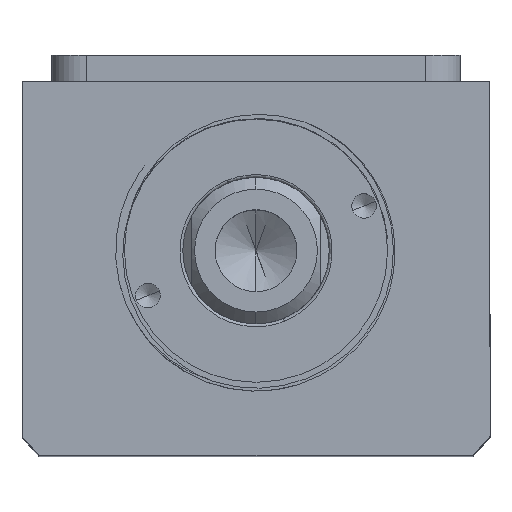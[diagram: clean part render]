
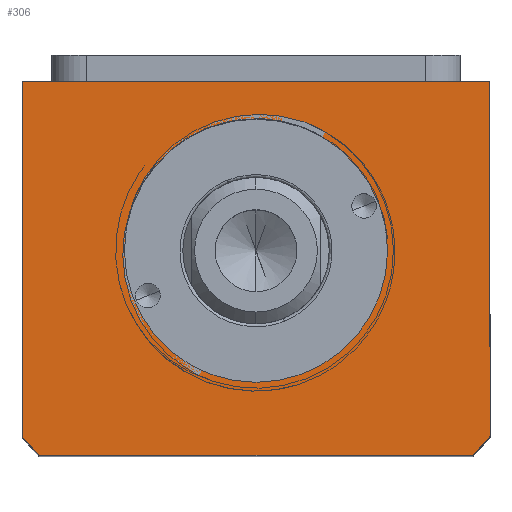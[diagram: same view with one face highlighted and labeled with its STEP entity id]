
A CAD part, top view. The second image highlights one B-rep face of the part: STEP entity #306.
In plain terms, the highlighted planar face has unit normal (0, 0, 1).
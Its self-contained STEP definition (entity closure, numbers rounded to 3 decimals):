
#27 = EDGE_CURVE ( 'NONE', #1104, #4679, #5565, .T. ) ;
#103 = ORIENTED_EDGE ( 'NONE', *, *, #4602, .F. ) ;
#214 = FACE_BOUND ( 'NONE', #1877, .T. ) ;
#306 = ADVANCED_FACE ( 'NONE', ( #214, #8893 ), #4925, .T. ) ;
#450 = CARTESIAN_POINT ( 'NONE',  ( 37.094, -75.507, 135. ) ) ;
#513 = CIRCLE ( 'NONE', #7897, 51. ) ;
#573 = DIRECTION ( 'NONE',  ( 0., 1., 0. ) ) ;
#631 = ORIENTED_EDGE ( 'NONE', *, *, #939, .T. ) ;
#643 = CARTESIAN_POINT ( 'NONE',  ( 40., -11.507, 135. ) ) ;
#799 = CARTESIAN_POINT ( 'NONE',  ( 0., -40.507, 135. ) ) ;
#939 = EDGE_CURVE ( 'NONE', #5122, #4898, #5720, .T. ) ;
#1104 = VERTEX_POINT ( 'NONE', #1522 ) ;
#1196 = AXIS2_PLACEMENT_3D ( 'NONE', #4841, #10564, #5660 ) ;
#1198 = ORIENTED_EDGE ( 'NONE', *, *, #5341, .T. ) ;
#1522 = CARTESIAN_POINT ( 'NONE',  ( -22.5, -40.507, 135. ) ) ;
#1605 = DIRECTION ( 'NONE',  ( 1., 0., 0. ) ) ;
#1877 = EDGE_LOOP ( 'NONE', ( #103, #3167 ) ) ;
#1888 = CIRCLE ( 'NONE', #3424, 51. ) ;
#2188 = DIRECTION ( 'NONE',  ( 0., -1., 0. ) ) ;
#2411 = ORIENTED_EDGE ( 'NONE', *, *, #6551, .T. ) ;
#2464 = CARTESIAN_POINT ( 'NONE',  ( 0., 0., 135. ) ) ;
#2495 = CARTESIAN_POINT ( 'NONE',  ( -37.094, -75.507, 135. ) ) ;
#2531 = VERTEX_POINT ( 'NONE', #5841 ) ;
#2886 = CARTESIAN_POINT ( 'NONE',  ( 0., -40.507, 135. ) ) ;
#3167 = ORIENTED_EDGE ( 'NONE', *, *, #27, .F. ) ;
#3341 = EDGE_CURVE ( 'NONE', #7453, #5122, #1888, .T. ) ;
#3361 = CARTESIAN_POINT ( 'NONE',  ( -40., -11.507, 135. ) ) ;
#3424 = AXIS2_PLACEMENT_3D ( 'NONE', #2886, #8608, #3703 ) ;
#3597 = CARTESIAN_POINT ( 'NONE',  ( -40., -72.145, 135. ) ) ;
#3683 = DIRECTION ( 'NONE',  ( 0., 0., 1. ) ) ;
#3703 = DIRECTION ( 'NONE',  ( 1., 0., 0. ) ) ;
#3991 = DIRECTION ( 'NONE',  ( 0., 0., 1. ) ) ;
#4039 = EDGE_CURVE ( 'NONE', #2531, #10546, #5714, .T. ) ;
#4156 = CARTESIAN_POINT ( 'NONE',  ( 40., -11.507, 135. ) ) ;
#4602 = EDGE_CURVE ( 'NONE', #4679, #1104, #6876, .T. ) ;
#4679 = VERTEX_POINT ( 'NONE', #7326 ) ;
#4841 = CARTESIAN_POINT ( 'NONE',  ( 0., -40.507, 135. ) ) ;
#4868 = CARTESIAN_POINT ( 'NONE',  ( -40., -11.507, 135. ) ) ;
#4898 = VERTEX_POINT ( 'NONE', #4156 ) ;
#4925 = PLANE ( 'NONE',  #8772 ) ;
#4995 = CARTESIAN_POINT ( 'NONE',  ( -40., -75.507, 135. ) ) ;
#5122 = VERTEX_POINT ( 'NONE', #7063 ) ;
#5341 = EDGE_CURVE ( 'NONE', #4898, #2531, #7275, .T. ) ;
#5565 = CIRCLE ( 'NONE', #10063, 22.5 ) ;
#5660 = DIRECTION ( 'NONE',  ( 1., 0., 0. ) ) ;
#5714 = LINE ( 'NONE', #4868, #7025 ) ;
#5720 = LINE ( 'NONE', #643, #9800 ) ;
#5841 = CARTESIAN_POINT ( 'NONE',  ( -40., -11.507, 135. ) ) ;
#6094 = EDGE_CURVE ( 'NONE', #6660, #7453, #6334, .T. ) ;
#6334 = LINE ( 'NONE', #4995, #8282 ) ;
#6389 = DIRECTION ( 'NONE',  ( 1., 0., 0. ) ) ;
#6460 = DIRECTION ( 'NONE',  ( 0., 0., 1. ) ) ;
#6530 = DIRECTION ( 'NONE',  ( 1., 0., 0. ) ) ;
#6551 = EDGE_CURVE ( 'NONE', #10546, #6660, #513, .T. ) ;
#6660 = VERTEX_POINT ( 'NONE', #2495 ) ;
#6876 = CIRCLE ( 'NONE', #1196, 22.5 ) ;
#6926 = ORIENTED_EDGE ( 'NONE', *, *, #6094, .T. ) ;
#7012 = VECTOR ( 'NONE', #9889, 1000. ) ;
#7025 = VECTOR ( 'NONE', #2188, 1000. ) ;
#7063 = CARTESIAN_POINT ( 'NONE',  ( 40., -72.145, 135. ) ) ;
#7275 = LINE ( 'NONE', #3361, #7012 ) ;
#7326 = CARTESIAN_POINT ( 'NONE',  ( 22.5, -40.507, 135. ) ) ;
#7453 = VERTEX_POINT ( 'NONE', #450 ) ;
#7897 = AXIS2_PLACEMENT_3D ( 'NONE', #799, #6460, #1605 ) ;
#8282 = VECTOR ( 'NONE', #9916, 1000. ) ;
#8608 = DIRECTION ( 'NONE',  ( 0., 0., 1. ) ) ;
#8772 = AXIS2_PLACEMENT_3D ( 'NONE', #2464, #3683, #6530 ) ;
#8848 = ORIENTED_EDGE ( 'NONE', *, *, #3341, .T. ) ;
#8893 = FACE_OUTER_BOUND ( 'NONE', #9485, .T. ) ;
#9179 = CARTESIAN_POINT ( 'NONE',  ( 0., -40.507, 135. ) ) ;
#9485 = EDGE_LOOP ( 'NONE', ( #10327, #2411, #6926, #8848, #631, #1198 ) ) ;
#9800 = VECTOR ( 'NONE', #573, 1000. ) ;
#9889 = DIRECTION ( 'NONE',  ( -1., 0., 0. ) ) ;
#9916 = DIRECTION ( 'NONE',  ( 1., 0., 0. ) ) ;
#10063 = AXIS2_PLACEMENT_3D ( 'NONE', #9179, #3991, #6389 ) ;
#10327 = ORIENTED_EDGE ( 'NONE', *, *, #4039, .T. ) ;
#10546 = VERTEX_POINT ( 'NONE', #3597 ) ;
#10564 = DIRECTION ( 'NONE',  ( 0., 0., 1. ) ) ;
